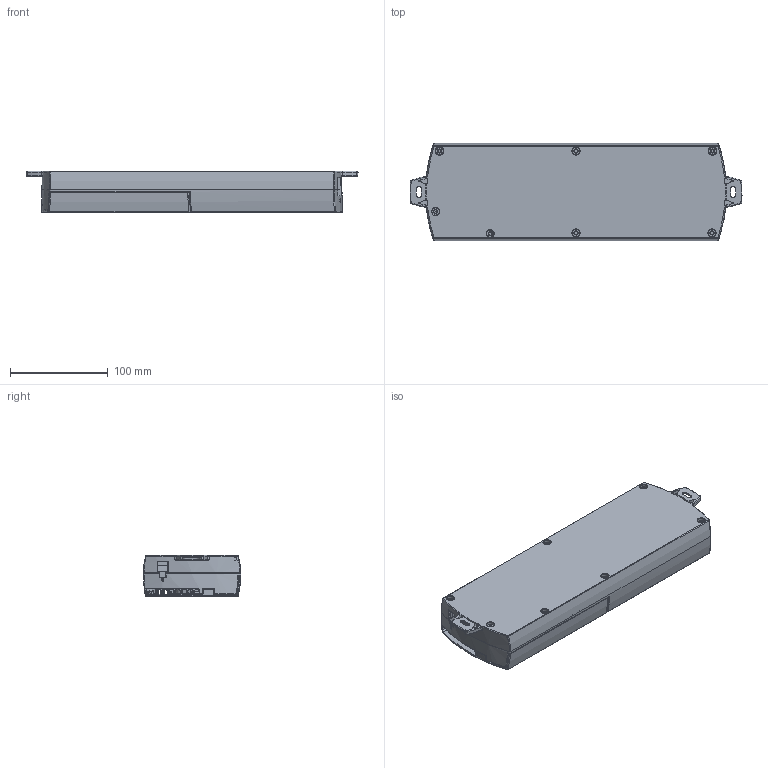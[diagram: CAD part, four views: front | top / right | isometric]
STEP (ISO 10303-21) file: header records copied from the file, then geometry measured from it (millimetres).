
FILE_DESCRIPTION (( 'STEP AP203' ), '1' );
FILE_NAME ('3D_TC22.STEP', '2022-04-20T03:24:27', ( '' ), ( '' ), 'SwSTEP 2.0', 'SolidWorks 2015', '' );
FILE_SCHEMA (( 'CONFIG_CONTROL_DESIGN' ));
Length unit declared in the file: inch
Products named in the file (1): 3D_TC22
Bounding box: 340.49 x 99.96 x 42.5 mm (x, y, z)
Volume: 240905.6 mm3; surface area: 247870.2 mm2
Topology: 4 solids, 4 shells, 2838 faces, 7319 edges, 4465 vertices
Faces by surface type: plane 1093, cylinder 893, bspline 565, cone 141, torus 121, sphere 25
Entity records: 98307 total; most frequent: CARTESIAN_POINT 33580, ORIENTED_EDGE 14412, DIRECTION 12567, EDGE_CURVE 7206, VERTEX_POINT 4461, AXIS2_PLACEMENT_3D 4440, LINE 3687, VECTOR 3687
